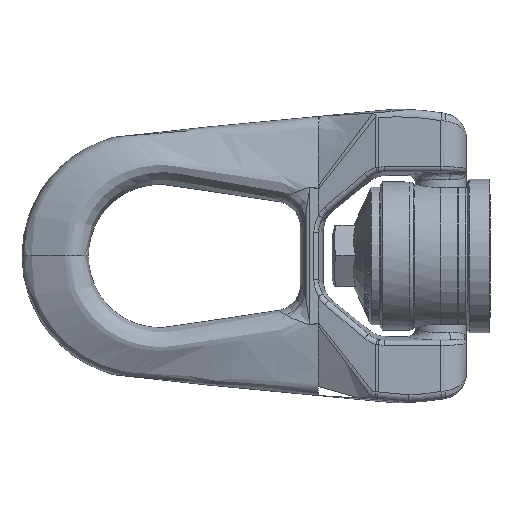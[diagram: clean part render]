
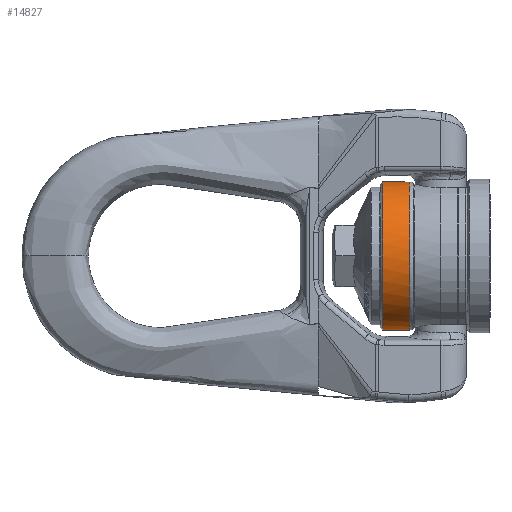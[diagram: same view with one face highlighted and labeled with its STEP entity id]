
A CAD part, front view. The second image highlights one B-rep face of the part: STEP entity #14827.
In plain terms, the highlighted cylindrical face has radius 29 mm (diameter 58 mm), a full revolution.
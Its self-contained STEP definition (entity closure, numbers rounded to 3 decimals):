
#196=FACE_BOUND('',#3839,.T.);
#735=CYLINDRICAL_SURFACE('',#15833,29.);
#2936=FACE_OUTER_BOUND('',#3838,.T.);
#3838=EDGE_LOOP('',(#10303));
#3839=EDGE_LOOP('',(#10304));
#4963=CIRCLE('',#15799,29.);
#4979=CIRCLE('',#15832,29.);
#6215=VERTEX_POINT('',#20164);
#6248=VERTEX_POINT('',#20520);
#7784=EDGE_CURVE('',#6215,#6215,#4963,.T.);
#7841=EDGE_CURVE('',#6248,#6248,#4979,.T.);
#10303=ORIENTED_EDGE('',*,*,#7784,.F.);
#10304=ORIENTED_EDGE('',*,*,#7841,.F.);
#14827=ADVANCED_FACE('',(#2936,#196),#735,.T.);
#15799=AXIS2_PLACEMENT_3D('',#20165,#16903,#16904);
#15832=AXIS2_PLACEMENT_3D('',#20521,#16993,#16994);
#15833=AXIS2_PLACEMENT_3D('',#20522,#16995,#16996);
#16903=DIRECTION('center_axis',(1.,0.,0.));
#16904=DIRECTION('ref_axis',(0.,-1.,0.));
#16993=DIRECTION('center_axis',(-1.,0.,0.));
#16994=DIRECTION('ref_axis',(0.,-1.,0.));
#16995=DIRECTION('center_axis',(1.,0.,0.));
#16996=DIRECTION('ref_axis',(0.,1.,0.));
#20164=CARTESIAN_POINT('',(-25.141,29.,0.));
#20165=CARTESIAN_POINT('Origin',(-25.141,0.,
0.));
#20520=CARTESIAN_POINT('',(-35.8,29.,0.));
#20521=CARTESIAN_POINT('Origin',(-35.8,0.,0.));
#20522=CARTESIAN_POINT('Origin',(-30.445,0.,0.));
